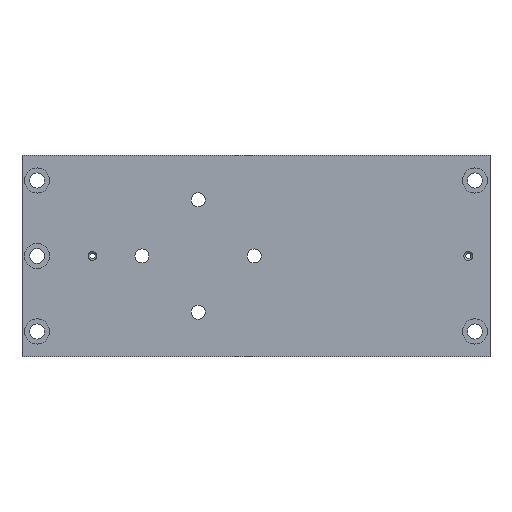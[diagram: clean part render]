
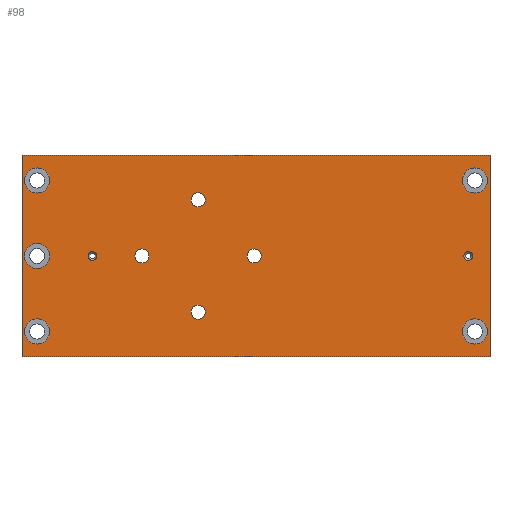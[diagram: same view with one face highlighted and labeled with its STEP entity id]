
A CAD part, top view. The second image highlights one B-rep face of the part: STEP entity #98.
In plain terms, the highlighted planar face has unit normal (0, 0, 1).
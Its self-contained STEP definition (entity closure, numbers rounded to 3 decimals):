
#98=ADVANCED_FACE('',(#449,#451,#453,#455,#457,#459,#461,#463,#465,#467,#469,#471),
#473,.T.);
#449=FACE_BOUND('',#450,.T.);
#450=EDGE_LOOP('',(#789,#790,#791,#792));
#451=FACE_BOUND('',#452,.T.);
#452=EDGE_LOOP('',(#793));
#453=FACE_BOUND('',#454,.T.);
#454=EDGE_LOOP('',(#794));
#455=FACE_BOUND('',#456,.T.);
#456=EDGE_LOOP('',(#795));
#457=FACE_BOUND('',#458,.T.);
#458=EDGE_LOOP('',(#796));
#459=FACE_BOUND('',#460,.T.);
#460=EDGE_LOOP('',(#797));
#461=FACE_BOUND('',#462,.T.);
#462=EDGE_LOOP('',(#798));
#463=FACE_BOUND('',#464,.T.);
#464=EDGE_LOOP('',(#799));
#465=FACE_BOUND('',#466,.T.);
#466=EDGE_LOOP('',(#800));
#467=FACE_BOUND('',#468,.T.);
#468=EDGE_LOOP('',(#801));
#469=FACE_BOUND('',#470,.T.);
#470=EDGE_LOOP('',(#802));
#471=FACE_BOUND('',#472,.T.);
#472=EDGE_LOOP('',(#803));
#473=PLANE('',#474);
#474=AXIS2_PLACEMENT_3D('',#475,#476,#477);
#475=CARTESIAN_POINT('',(0.,0.,9.));
#476=DIRECTION('',(0.,0.,1.));
#477=DIRECTION('',(-1.,0.,0.));
#789=ORIENTED_EDGE('',*,*,#917,.T.);
#790=ORIENTED_EDGE('',*,*,#918,.F.);
#791=ORIENTED_EDGE('',*,*,#919,.T.);
#792=ORIENTED_EDGE('',*,*,#920,.F.);
#793=ORIENTED_EDGE('',*,*,#921,.T.);
#794=ORIENTED_EDGE('',*,*,#922,.T.);
#795=ORIENTED_EDGE('',*,*,#923,.T.);
#796=ORIENTED_EDGE('',*,*,#924,.T.);
#797=ORIENTED_EDGE('',*,*,#925,.T.);
#798=ORIENTED_EDGE('',*,*,#926,.T.);
#799=ORIENTED_EDGE('',*,*,#927,.T.);
#800=ORIENTED_EDGE('',*,*,#928,.T.);
#801=ORIENTED_EDGE('',*,*,#929,.T.);
#802=ORIENTED_EDGE('',*,*,#930,.T.);
#803=ORIENTED_EDGE('',*,*,#931,.T.);
#917=EDGE_CURVE('',#991,#992,#993,.T.);
#918=EDGE_CURVE('',#994,#992,#995,.T.);
#919=EDGE_CURVE('',#994,#996,#997,.T.);
#920=EDGE_CURVE('',#991,#996,#998,.T.);
#921=EDGE_CURVE('',#999,#999,#1000,.F.);
#922=EDGE_CURVE('',#1001,#1001,#1002,.F.);
#923=EDGE_CURVE('',#1003,#1003,#1004,.F.);
#924=EDGE_CURVE('',#1005,#1005,#1006,.F.);
#925=EDGE_CURVE('',#1007,#1007,#1008,.F.);
#926=EDGE_CURVE('',#1009,#1009,#1010,.F.);
#927=EDGE_CURVE('',#1011,#1011,#1012,.T.);
#928=EDGE_CURVE('',#1013,#1013,#1014,.T.);
#929=EDGE_CURVE('',#1015,#1015,#1016,.T.);
#930=EDGE_CURVE('',#1017,#1017,#1018,.T.);
#931=EDGE_CURVE('',#1019,#1019,#1020,.F.);
#991=VERTEX_POINT('',#1141);
#992=VERTEX_POINT('',#1142);
#993=LINE('',#1143,#1144);
#994=VERTEX_POINT('',#1146);
#995=LINE('',#1147,#1148);
#996=VERTEX_POINT('',#1150);
#997=LINE('',#1151,#1152);
#998=LINE('',#1154,#1155);
#999=VERTEX_POINT('',#1157);
#1000=CIRCLE('',#1158,7.5);
#1001=VERTEX_POINT('',#1162);
#1002=CIRCLE('',#1163,7.5);
#1003=VERTEX_POINT('',#1167);
#1004=CIRCLE('',#1168,7.5);
#1005=VERTEX_POINT('',#1172);
#1006=CIRCLE('',#1173,7.5);
#1007=VERTEX_POINT('',#1177);
#1008=CIRCLE('',#1178,7.5);
#1009=VERTEX_POINT('',#1182);
#1010=CIRCLE('',#1183,2.621);
#1011=VERTEX_POINT('',#1187);
#1012=CIRCLE('',#1188,4.188);
#1013=VERTEX_POINT('',#1192);
#1014=CIRCLE('',#1193,4.188);
#1015=VERTEX_POINT('',#1197);
#1016=CIRCLE('',#1198,4.188);
#1017=VERTEX_POINT('',#1202);
#1018=CIRCLE('',#1203,4.188);
#1019=VERTEX_POINT('',#1207);
#1020=CIRCLE('',#1208,2.621);
#1141=CARTESIAN_POINT('',(145.,60.,9.));
#1142=CARTESIAN_POINT('',(-134.,60.,9.));
#1143=CARTESIAN_POINT('',(145.,60.,9.));
#1144=VECTOR('',#1145,1.);
#1145=DIRECTION('',(-1.,0.,0.));
#1146=CARTESIAN_POINT('',(-134.,-60.,9.));
#1147=CARTESIAN_POINT('',(-134.,-60.,9.));
#1148=VECTOR('',#1149,1.);
#1149=DIRECTION('',(0.,1.,0.));
#1150=CARTESIAN_POINT('',(145.,-60.,9.));
#1151=CARTESIAN_POINT('',(-134.,-60.,9.));
#1152=VECTOR('',#1153,1.);
#1153=DIRECTION('',(1.,0.,0.));
#1154=CARTESIAN_POINT('',(145.,60.,9.));
#1155=VECTOR('',#1156,1.);
#1156=DIRECTION('',(0.,-1.,0.));
#1157=CARTESIAN_POINT('',(-132.5,-45.,9.));
#1158=AXIS2_PLACEMENT_3D('',#1159,#1160,#1161);
#1159=CARTESIAN_POINT('',(-125.,-45.,9.));
#1160=DIRECTION('',(0.,0.,1.));
#1161=DIRECTION('',(-1.,0.,0.));
#1162=CARTESIAN_POINT('',(-132.5,0.,9.));
#1163=AXIS2_PLACEMENT_3D('',#1164,#1165,#1166);
#1164=CARTESIAN_POINT('',(-125.,0.,9.));
#1165=DIRECTION('',(0.,0.,1.));
#1166=DIRECTION('',(-1.,0.,0.));
#1167=CARTESIAN_POINT('',(-132.5,45.,9.));
#1168=AXIS2_PLACEMENT_3D('',#1169,#1170,#1171);
#1169=CARTESIAN_POINT('',(-125.,45.,9.));
#1170=DIRECTION('',(0.,0.,1.));
#1171=DIRECTION('',(-1.,0.,0.));
#1172=CARTESIAN_POINT('',(128.5,-45.,9.));
#1173=AXIS2_PLACEMENT_3D('',#1174,#1175,#1176);
#1174=CARTESIAN_POINT('',(136.,-45.,9.));
#1175=DIRECTION('',(0.,0.,1.));
#1176=DIRECTION('',(-1.,0.,0.));
#1177=CARTESIAN_POINT('',(143.5,45.,9.));
#1178=AXIS2_PLACEMENT_3D('',#1179,#1180,#1181);
#1179=CARTESIAN_POINT('',(136.,45.,9.));
#1180=DIRECTION('',(0.,0.,1.));
#1181=DIRECTION('',(1.,0.,0.));
#1182=CARTESIAN_POINT('',(-94.621,0.,9.));
#1183=AXIS2_PLACEMENT_3D('',#1184,#1185,#1186);
#1184=CARTESIAN_POINT('',(-92.,0.,9.));
#1185=DIRECTION('',(0.,0.,1.));
#1186=DIRECTION('',(-1.,0.,0.));
#1187=CARTESIAN_POINT('',(-66.688,0.,9.));
#1188=AXIS2_PLACEMENT_3D('',#1189,#1190,#1191);
#1189=CARTESIAN_POINT('',(-62.5,0.,9.));
#1190=DIRECTION('',(0.,0.,-1.));
#1191=DIRECTION('',(-1.,0.,0.));
#1192=CARTESIAN_POINT('',(0.312,0.,9.));
#1193=AXIS2_PLACEMENT_3D('',#1194,#1195,#1196);
#1194=CARTESIAN_POINT('',(4.5,0.,9.));
#1195=DIRECTION('',(0.,0.,-1.));
#1196=DIRECTION('',(-1.,0.,0.));
#1197=CARTESIAN_POINT('',(-33.188,-33.5,9.));
#1198=AXIS2_PLACEMENT_3D('',#1199,#1200,#1201);
#1199=CARTESIAN_POINT('',(-29.,-33.5,9.));
#1200=DIRECTION('',(0.,0.,-1.));
#1201=DIRECTION('',(-1.,0.,0.));
#1202=CARTESIAN_POINT('',(-33.188,33.5,9.));
#1203=AXIS2_PLACEMENT_3D('',#1204,#1205,#1206);
#1204=CARTESIAN_POINT('',(-29.,33.5,9.));
#1205=DIRECTION('',(0.,0.,-1.));
#1206=DIRECTION('',(-1.,0.,0.));
#1207=CARTESIAN_POINT('',(129.379,0.,9.));
#1208=AXIS2_PLACEMENT_3D('',#1209,#1210,#1211);
#1209=CARTESIAN_POINT('',(132.,0.,9.));
#1210=DIRECTION('',(0.,0.,1.));
#1211=DIRECTION('',(-1.,0.,0.));
